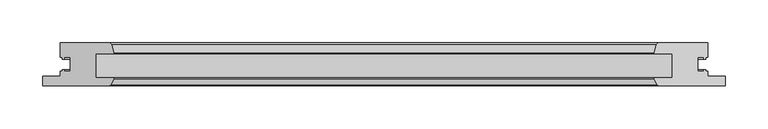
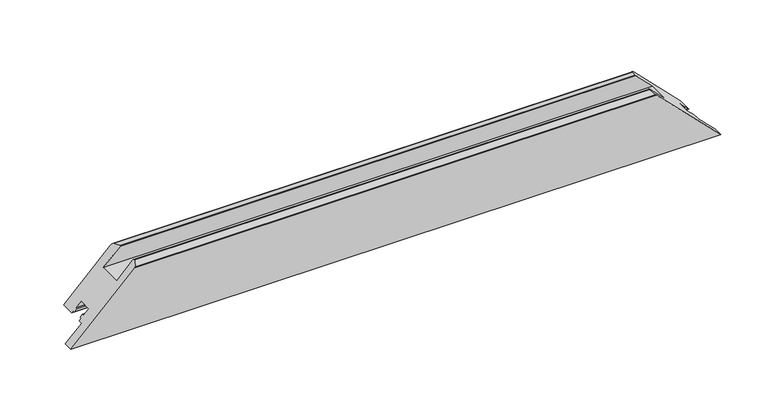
"""IFC4 building model written with IfcOpenShell, lengths in millimetres: proxy geometry, Weiku - Montante - Folha 02.2.01.017 : Weiku - Montante - Folha 02.2.01.017."""

from ifc_helpers import new_model, si_unit, frame, origin, place, context, project, spatial, ellipse_curve, source, transform, mapped, element, save
from ifc_brep_helpers import plane_surface, cylinder_surface, advanced_brep


def generic_models_6b4c6b9f(model_context):
    return source(origin(), model_context, "Body", "AdvancedBrep", [
        advanced_brep(
        [(-377.0, 50.0, 20.0), (-319.9997332, 50.0, 77.0002668), (319.9997332, 50.0, 77.0002668), (377.0, 50.0, 20.0), (-397.0, 0.0, 0.0), (397.0, 0.0, 0.0), (318.9872264, 0.0, 78.0127736), (-318.9872264, 0.0, 78.0127736), (-377.0, 33.1, 20.0), (-374.8, 33.1, 22.2), (-374.8, 31.1, 22.2), (-372.0, 31.1, 25.0), (-372.0, 33.1, 25.0), (-365.5, 33.1, 31.5), (-365.5, 16.9, 31.5), (-372.0, 16.9, 25.0), (-372.0, 18.9, 25.0), (-374.8, 18.9, 22.2), (-374.8, 16.9, 22.2), (-377.0, 16.9, 20.0), (-377.0, 11.5, 20.0), (-397.0, 11.5, 0.0), (-318.0932657, 0.5518546, 78.9067343), (-314.5512796, 7.617411, 82.4487204), (-315.7134285, 9.5, 81.2865715), (-335.5, 9.5, 61.5), (-335.5, 37.5, 61.5), (-315.0, 37.5, 82.0), (-314.5170371, 38.1294095, 82.4829629), (-317.1019557, 47.7764571, 79.8980443), (317.1019557, 47.7764571, 79.8980443), (314.5170371, 38.1294095, 82.4829629), (315.0, 37.5, 82.0), (335.5, 37.5, 61.5), (335.5, 9.5, 61.5), (315.7134285, 9.5, 81.2865715), (314.5512796, 7.617411, 82.4487204), (318.0932657, 0.5518546, 78.9067343), (397.0, 11.5, 0.0), (377.0, 11.5, 20.0), (377.0, 16.9, 20.0), (374.8, 16.9, 22.2), (374.8, 18.9, 22.2), (372.0, 18.9, 25.0), (372.0, 16.9, 25.0), (365.5, 16.9, 31.5), (365.5, 33.1, 31.5), (372.0, 33.1, 25.0), (372.0, 31.1, 25.0), (374.8, 31.1, 22.2), (374.8, 33.1, 22.2), (377.0, 33.1, 20.0)],
        [
            (0, 1),
            (1, 2),
            (2, 3),
            (3, 0),
            (4, 5),
            (5, 6),
            (6, 7),
            (7, 4),
            (0, 8),
            (8, 9),
            (9, 10),
            (10, 11),
            (11, 12),
            (12, 13),
            (13, 14),
            (14, 15),
            (15, 16),
            (16, 17),
            (17, 18),
            (18, 19),
            (19, 20),
            (20, 21),
            (21, 4),
            (7, 22, ellipse_curve(frame((-318.9872264, 1.0, 78.0127736), z_axis=(-0.7071067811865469, 0.0, 0.7071067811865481), x_axis=(-0.7071067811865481, 0.0, -0.7071067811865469)), 1.4142136, 1.0)),
            (22, 23),
            (23, 24, ellipse_curve(frame((-315.7134285, 8.2, 81.2865715), z_axis=(-0.7071067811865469, 0.0, 0.7071067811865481), x_axis=(-0.7071067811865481, 0.0, -0.7071067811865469)), 1.8384776, 1.3)),
            (24, 25),
            (25, 26),
            (26, 27),
            (27, 28, ellipse_curve(frame((-315.0, 38.0, 82.0), z_axis=(-0.7071067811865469, 0.0, 0.7071067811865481), x_axis=(-0.7071067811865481, 0.0, -0.7071067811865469)), 0.7071068, 0.5)),
            (28, 29),
            (29, 1, ellipse_curve(frame((-319.9997332, 47.0, 77.0002668), z_axis=(-0.7071067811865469, 0.0, 0.7071067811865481), x_axis=(-0.7071067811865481, 0.0, -0.7071067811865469)), 4.2426407, 3.0)),
            (2, 30, ellipse_curve(frame((319.9997332, 47.0, 77.0002668), z_axis=(0.707106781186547, 0.0, 0.7071067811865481), x_axis=(-0.7071067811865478, 0.0, 0.707106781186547)), 4.2426407, 3.0)),
            (30, 31),
            (31, 32, ellipse_curve(frame((315.0, 38.0, 82.0), z_axis=(0.707106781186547, 0.0, 0.7071067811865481), x_axis=(-0.7071067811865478, 0.0, 0.707106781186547)), 0.7071068, 0.5)),
            (32, 33),
            (33, 34),
            (34, 35),
            (35, 36, ellipse_curve(frame((315.7134285, 8.2, 81.2865715), z_axis=(0.707106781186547, 0.0, 0.7071067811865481), x_axis=(-0.7071067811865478, 0.0, 0.707106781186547)), 1.8384776, 1.3)),
            (36, 37),
            (37, 6, ellipse_curve(frame((318.9872264, 1.0, 78.0127736), z_axis=(0.707106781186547, 0.0, 0.7071067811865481), x_axis=(-0.7071067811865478, 0.0, 0.707106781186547)), 1.4142136, 1.0)),
            (5, 38),
            (38, 39),
            (39, 40),
            (40, 41),
            (41, 42),
            (42, 43),
            (43, 44),
            (44, 45),
            (45, 46),
            (46, 47),
            (47, 48),
            (48, 49),
            (49, 50),
            (50, 51),
            (51, 3),
            (37, 22),
            (36, 23),
            (35, 24),
            (34, 25),
            (33, 26),
            (32, 27),
            (31, 28),
            (30, 29),
            (51, 8),
            (50, 9),
            (49, 10),
            (48, 11),
            (47, 12),
            (46, 13),
            (45, 14),
            (44, 15),
            (43, 16),
            (42, 17),
            (41, 18),
            (40, 19),
            (39, 20),
            (38, 21),
        ],
        [
            plane_surface(frame((-397.0, 50.0, 77.0002668), z_axis=(0.0, 1.0, 0.0), x_axis=(1.0, 0.0, 0.0))),
            plane_surface(frame((-397.0, 0.0, 0.0), z_axis=(0.0, -1.0, 0.0), x_axis=(1.0, 0.0, 0.0))),
            plane_surface(frame((-425.2842712, 0.0, -28.2842712), z_axis=(-0.7071067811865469, 0.0, 0.7071067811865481), x_axis=(0.0, 1.0, 0.0))),
            plane_surface(frame((307.0, 0.0, 90.0), z_axis=(0.707106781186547, 0.0, 0.7071067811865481), x_axis=(0.0, 1.0, 0.0))),
            cylinder_surface(frame((-397.0, 1.0, 78.0127736), z_axis=(-1.0, 0.0, 0.0), x_axis=(0.0, 1.0, 0.0)), 1.0),
            plane_surface(frame((-397.0, 0.5518546, 78.9067343), z_axis=(0.0, -0.4481453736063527, 0.8939606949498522), x_axis=(1.0, 0.0, 0.0))),
            cylinder_surface(frame((-397.0, 8.2, 81.2865715), z_axis=(-1.0, 0.0, 0.0), x_axis=(0.0, 1.0, 0.0)), 1.3),
            plane_surface(frame((-397.0, 9.5, 81.2865715), z_axis=(0.0, 1.0, 0.0), x_axis=(1.0, 0.0, 0.0))),
            plane_surface(frame((-397.0, 9.5, 61.5), z_axis=(0.0, 0.0, 1.0), x_axis=(1.0, 0.0, 0.0))),
            plane_surface(frame((-397.0, 37.5, 61.5), z_axis=(0.0, -1.0, 0.0), x_axis=(1.0, 0.0, 0.0))),
            cylinder_surface(frame((-397.0, 38.0, 82.0), z_axis=(-1.0, 0.0, 0.0), x_axis=(0.0, 1.0, 0.0)), 0.5),
            plane_surface(frame((-397.0, 38.1294095, 82.4829629), z_axis=(0.0, 0.2588190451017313, 0.9659258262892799), x_axis=(1.0, 0.0, 0.0))),
            cylinder_surface(frame((-397.0, 47.0, 77.0002668), z_axis=(-1.0, 0.0, 0.0), x_axis=(0.0, 1.0, 0.0)), 3.0),
            plane_surface(frame((-397.0, 50.0, 20.0), z_axis=(0.0, 0.0, -1.0), x_axis=(1.0, 0.0, 0.0))),
            plane_surface(frame((-397.0, 33.1, 20.0), z_axis=(0.0, -1.0, 0.0), x_axis=(1.0, 0.0, 0.0))),
            plane_surface(frame((-397.0, 33.1, 22.2), z_axis=(0.0, 0.0, -1.0), x_axis=(1.0, 0.0, 0.0))),
            plane_surface(frame((-397.0, 31.1, 22.2), z_axis=(0.0, -1.0, 0.0), x_axis=(1.0, 0.0, 0.0))),
            plane_surface(frame((-397.0, 31.1, 25.0), z_axis=(0.0, 0.0, 1.0), x_axis=(1.0, 0.0, 0.0))),
            plane_surface(frame((-397.0, 33.1, 25.0), z_axis=(0.0, -1.0, 0.0), x_axis=(1.0, 0.0, 0.0))),
            plane_surface(frame((-397.0, 33.1, 31.5), z_axis=(0.0, 0.0, -1.0), x_axis=(1.0, 0.0, 0.0))),
            plane_surface(frame((-397.0, 16.9, 31.5), z_axis=(0.0, 1.0, 0.0), x_axis=(1.0, 0.0, 0.0))),
            plane_surface(frame((-397.0, 16.9, 25.0), z_axis=(0.0, 0.0, 1.0), x_axis=(1.0, 0.0, 0.0))),
            plane_surface(frame((-397.0, 18.9, 25.0), z_axis=(0.0, 1.0, 0.0), x_axis=(1.0, 0.0, 0.0))),
            plane_surface(frame((-397.0, 18.9, 22.2), z_axis=(0.0, 0.0, -1.0), x_axis=(1.0, 0.0, 0.0))),
            plane_surface(frame((-397.0, 16.9, 22.2), z_axis=(0.0, 1.0, 0.0), x_axis=(1.0, 0.0, 0.0))),
            plane_surface(frame((-397.0, 16.9, 20.0), z_axis=(0.0, 0.0, -1.0), x_axis=(1.0, 0.0, 0.0))),
            plane_surface(frame((-397.0, 11.5, 20.0), z_axis=(0.0, 1.0, 0.0), x_axis=(1.0, 0.0, 0.0))),
            plane_surface(frame((-397.0, 11.5, 0.0), z_axis=(0.0, 0.0, -1.0), x_axis=(1.0, 0.0, 0.0))),
        ],
        [
            (0, [[1, 2, 3, 4]]),
            (1, [[5, 6, 7, 8]]),
            (2, [[-1, 9, 10, 11, 12, 13, 14, 15, 16, 17, 18, 19, 20, 21, 22, 23, -8, 24, 25, 26, 27, 28, 29, 30, 31, 32]]),
            (3, [[-3, 33, 34, 35, 36, 37, 38, 39, 40, 41, -6, 42, 43, 44, 45, 46, 47, 48, 49, 50, 51, 52, 53, 54, 55, 56]]),
            (4, [[-24, -7, -41, 57]]),
            (5, [[-25, -57, -40, 58]]),
            (6, [[-26, -58, -39, 59]]),
            (7, [[-27, -59, -38, 60]]),
            (8, [[-28, -60, -37, 61]]),
            (9, [[-29, -61, -36, 62]]),
            (10, [[-30, -62, -35, 63]]),
            (11, [[-31, -63, -34, 64]]),
            (12, [[-32, -64, -33, -2]]),
            (13, [[-9, -4, -56, 65]]),
            (14, [[-10, -65, -55, 66]]),
            (15, [[-11, -66, -54, 67]]),
            (16, [[-12, -67, -53, 68]]),
            (17, [[-13, -68, -52, 69]]),
            (18, [[-14, -69, -51, 70]]),
            (19, [[-15, -70, -50, 71]]),
            (20, [[-16, -71, -49, 72]]),
            (21, [[-17, -72, -48, 73]]),
            (22, [[-18, -73, -47, 74]]),
            (23, [[-19, -74, -46, 75]]),
            (24, [[-20, -75, -45, 76]]),
            (25, [[-21, -76, -44, 77]]),
            (26, [[78, -22, -77, -43]]),
            (27, [[-5, -23, -78, -42]]),
        ],
    ),
    ])


if __name__ == "__main__":
    model = new_model("IFC4")
    model_context = context("Model", 3, world=origin())
    ifc_project = project(units=[si_unit("LENGTHUNIT", "METRE", prefix="MILLI")], contexts=[model_context])
    site = spatial("IfcSite", under=ifc_project)
    building = spatial("IfcBuilding", under=site)
    placement = place(None, origin())
    generic_models_shape = generic_models_6b4c6b9f(model_context)
    element("IfcBuildingElementProxy", 1, Name="Weiku - Montante - Folha 02.2.01.017 : Weiku - Montante - Folha 02.2.01.017", ObjectType="Weiku - Montante - Folha 02.2.01.017 : Weiku - Montante - Folha 02.2.01.017", at=placement, inside=building, context=model_context, shape_type="MappedRepresentation", body=[
        mapped(generic_models_shape, transform((0.0, 0.0, 0.0), x_axis=(1.0, 0.0, 0.0), y_axis=(0.0, 1.0, 0.0), z_axis=(0.0, 0.0, 1.0))),
    ])
    save(model, "model.ifc")
